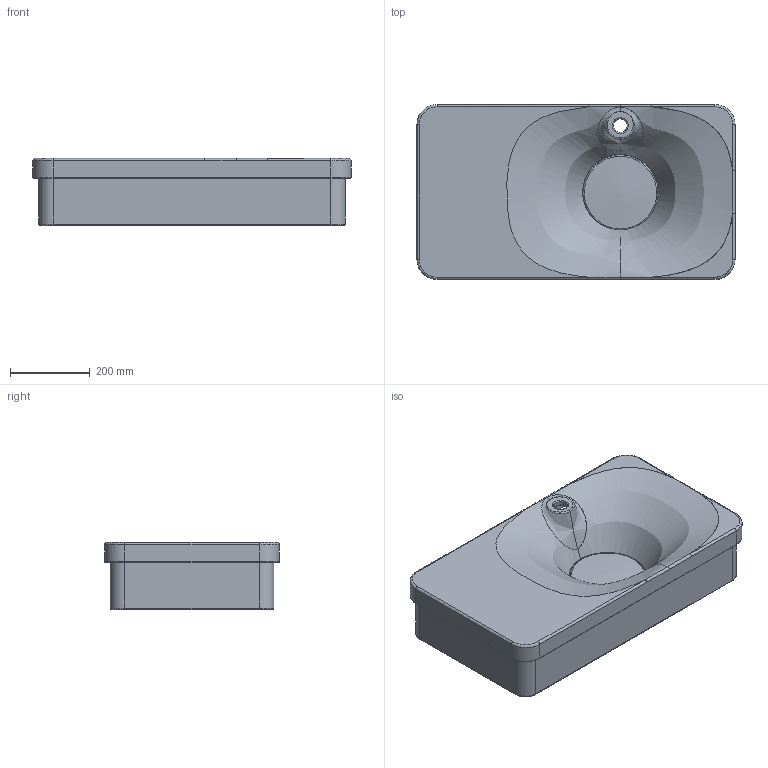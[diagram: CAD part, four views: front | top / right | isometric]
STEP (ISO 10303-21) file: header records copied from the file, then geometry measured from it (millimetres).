
FILE_DESCRIPTION(/* description */ (''),/* implementation_level */ '2;1');
FILE_NAME(/* name */ 'FUJI80~1',/* time_stamp */ '2017-12-18T11:40:55+01:00',/* author */ (''),/* organization */ (''),/* preprocessor_version */ 'ST-DEVELOPER v15',/* originating_system */ '',/* authorisation */ '');
FILE_SCHEMA (('AUTOMOTIVE_DESIGN'));
Length unit declared in the file: millimetre
Products named in the file (1): Document
Bounding box: 799.17 x 439.54 x 169.04 mm (x, y, z)
Volume: 6897560 mm3; surface area: 1720393 mm2
Topology: 1 solids, 5 shells, 147 faces, 412 edges, 250 vertices
Faces by surface type: bspline 124, plane 23
Entity records: 157299 total; most frequent: CARTESIAN_POINT 155102, ORIENTED_EDGE 728, EDGE_CURVE 409, VERTEX_POINT 245, B_SPLINE_CURVE_WITH_KNOTS 210, EDGE_LOOP 152, ADVANCED_FACE 147, FACE_OUTER_BOUND 147
